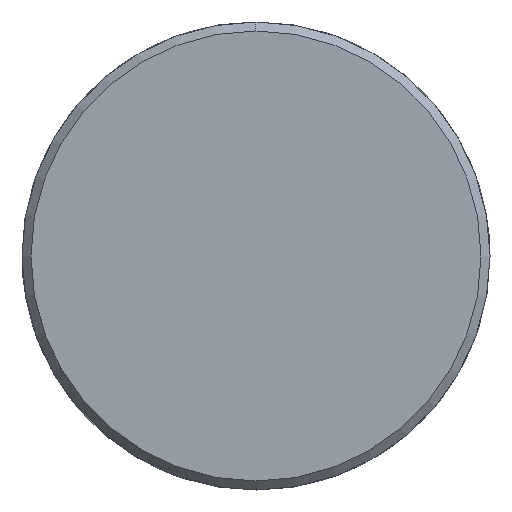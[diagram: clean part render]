
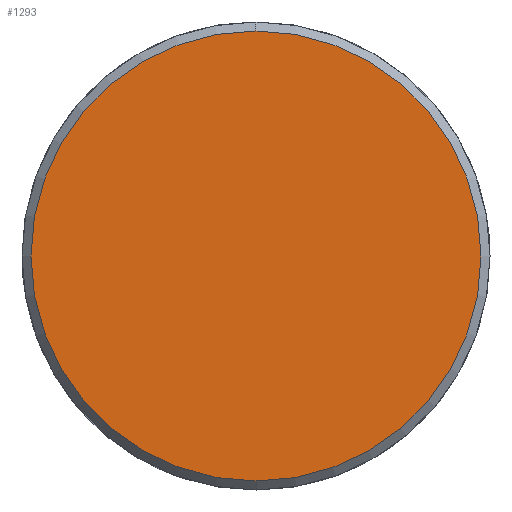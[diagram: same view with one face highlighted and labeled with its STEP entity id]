
A CAD part, left-side view. The second image highlights one B-rep face of the part: STEP entity #1293.
In plain terms, the highlighted planar face has unit normal (-1, 0, 0).
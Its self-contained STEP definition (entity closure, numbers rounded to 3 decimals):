
#1225=CARTESIAN_POINT('Vertex',(-8.,0.,-25.)) ;
#1228=CARTESIAN_POINT('Axis2P3D Location',(-8.,0.,0.)) ;
#1232=CARTESIAN_POINT('Vertex',(-8.,25.,0.)) ;
#1235=CARTESIAN_POINT('Axis2P3D Location',(-8.,0.,0.)) ;
#1239=CARTESIAN_POINT('Vertex',(-8.,0.,25.)) ;
#1261=CARTESIAN_POINT('Axis2P3D Location',(-8.,0.,0.)) ;
#1265=CARTESIAN_POINT('Vertex',(-8.,-25.,0.)) ;
#1268=CARTESIAN_POINT('Axis2P3D Location',(-8.,0.,0.)) ;
#1282=CARTESIAN_POINT('Axis2P3D Location',(-8.,0.,0.)) ;
#1229=DIRECTION('Axis2P3D Direction',(1.,0.,-0.)) ;
#1236=DIRECTION('Axis2P3D Direction',(1.,0.,-0.)) ;
#1262=DIRECTION('Axis2P3D Direction',(1.,0.,-0.)) ;
#1269=DIRECTION('Axis2P3D Direction',(1.,0.,-0.)) ;
#1283=DIRECTION('Axis2P3D Direction',(1.,0.,-0.)) ;
#1284=DIRECTION('Axis2P3D XDirection',(-0.,0.,-1.)) ;
#1230=AXIS2_PLACEMENT_3D('Circle Axis2P3D',#1228,#1229,$) ;
#1237=AXIS2_PLACEMENT_3D('Circle Axis2P3D',#1235,#1236,$) ;
#1263=AXIS2_PLACEMENT_3D('Circle Axis2P3D',#1261,#1262,$) ;
#1270=AXIS2_PLACEMENT_3D('Circle Axis2P3D',#1268,#1269,$) ;
#1285=AXIS2_PLACEMENT_3D('Plane Axis2P3D',#1282,#1283,#1284) ;
#1288=ORIENTED_EDGE('',*,*,#1234,.F.) ;
#1289=ORIENTED_EDGE('',*,*,#1272,.F.) ;
#1290=ORIENTED_EDGE('',*,*,#1267,.F.) ;
#1291=ORIENTED_EDGE('',*,*,#1241,.F.) ;
#1293=ADVANCED_FACE('351-40X146X300',(#1292),#1286,.F.) ;
#1231=CIRCLE('generated circle',#1230,25.) ;
#1238=CIRCLE('generated circle',#1237,25.) ;
#1264=CIRCLE('generated circle',#1263,25.) ;
#1271=CIRCLE('generated circle',#1270,25.) ;
#1234=EDGE_CURVE('',#1226,#1233,#1231,.T.) ;
#1241=EDGE_CURVE('',#1233,#1240,#1238,.T.) ;
#1267=EDGE_CURVE('',#1240,#1266,#1264,.T.) ;
#1272=EDGE_CURVE('',#1266,#1226,#1271,.T.) ;
#1287=EDGE_LOOP('',(#1288,#1289,#1290,#1291)) ;
#1292=FACE_OUTER_BOUND('',#1287,.T.) ;
#1286=PLANE('Plane',#1285) ;
#1226=VERTEX_POINT('',#1225) ;
#1233=VERTEX_POINT('',#1232) ;
#1240=VERTEX_POINT('',#1239) ;
#1266=VERTEX_POINT('',#1265) ;
